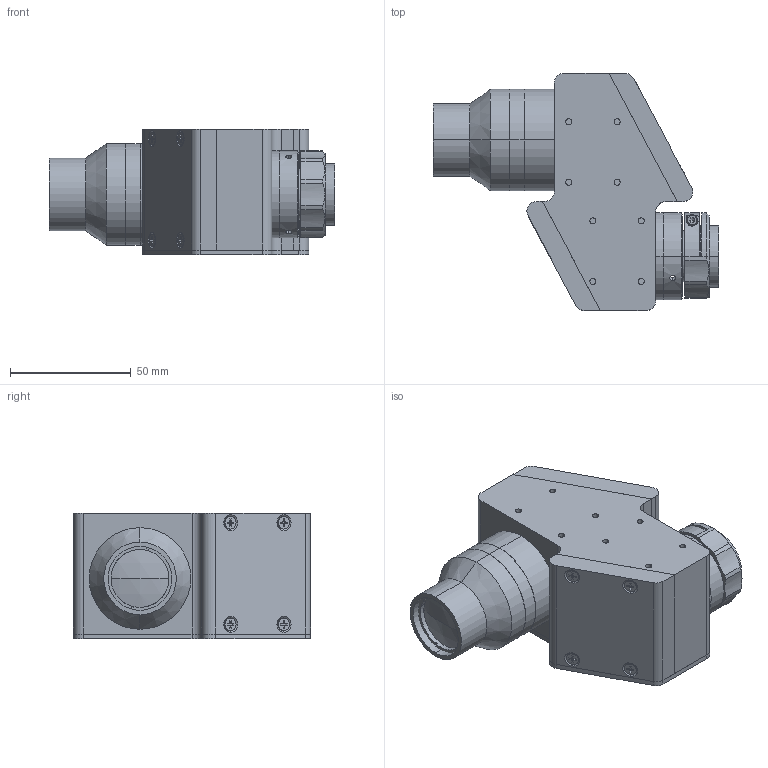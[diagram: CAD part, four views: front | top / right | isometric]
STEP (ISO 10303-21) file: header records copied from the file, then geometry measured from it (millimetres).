
FILE_DESCRIPTION (( 'STEP AP203' ), '1' );
FILE_NAME ('XF-MH09X163.STEP', '2020-08-24T07:12:30', ( 'canrill-02' ), ( '' ), 'SwSTEP 2.0', 'SolidWorks 2014', '' );
FILE_SCHEMA (( 'CONFIG_CONTROL_DESIGN' ));
Length unit declared in the file: millimetre
Products named in the file (1): XF-MH09X163
Bounding box: 118 x 98 x 52 mm (x, y, z)
Surface area: 38302.9 mm2 (no closed solid volume)
Topology: 0 solids, 30 shells, 431 faces, 1302 edges, 882 vertices
Faces by surface type: plane 220, cylinder 166, cone 41, sphere 2, torus 2
Entity records: 14868 total; most frequent: CARTESIAN_POINT 2897, DIRECTION 2589, ORIENTED_EDGE 2227, EDGE_CURVE 1300, VERTEX_POINT 882, AXIS2_PLACEMENT_3D 878, VECTOR 833, LINE 833
